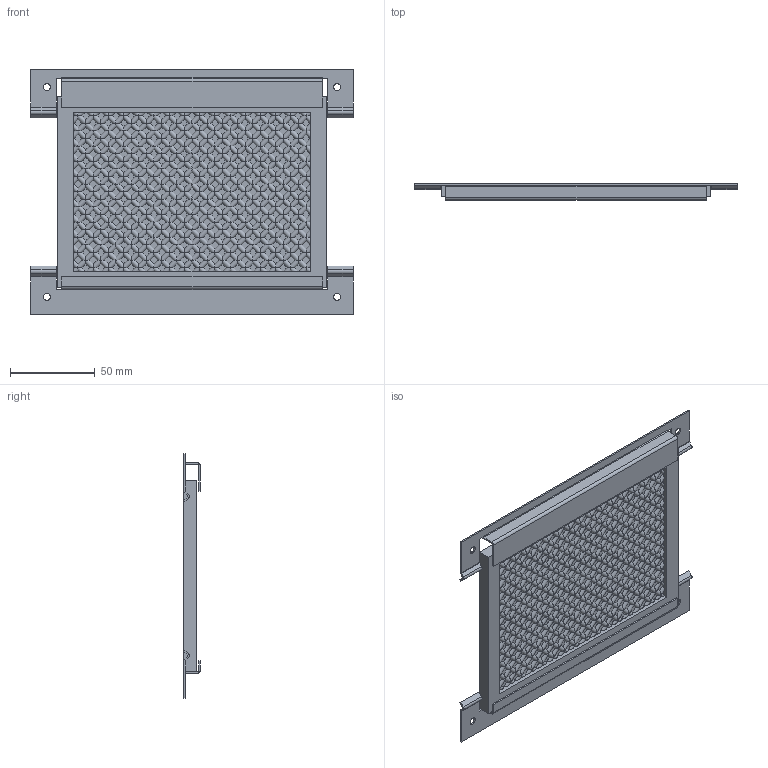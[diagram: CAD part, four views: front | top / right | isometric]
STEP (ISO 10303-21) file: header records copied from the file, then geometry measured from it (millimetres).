
FILE_DESCRIPTION((''),'2;1');
FILE_NAME('SCE-FLT64_ASM','2021-06-28T16:16:27',('johnh'),('SAGINAW CONTROL & ENGINEERING'),'CREO PARAMETRIC BY PTC INC, 2017260','CREO PARAMETRIC BY PTC INC, 2017260','');
FILE_SCHEMA(('AUTOMOTIVE_DESIGN { 1 0 10303 214 1 1 1 1 }'));
Length unit declared in the file: inch
Products named in the file (4): 116956; 116957; 105205; SCE-FLT64_ASM
Assembly tree (3 placements, depth 2):
  SCE-FLT64_ASM
    116956
    116957
    105205
Bounding box: 190.5 x 9.75 x 144.45 mm (x, y, z)
Volume: 75467 mm3; surface area: 72247.3 mm2
Topology: 3 solids, 3 shells, 2252 faces, 5984 edges, 3740 vertices
Faces by surface type: cylinder 1440, plane 812
Entity records: 84565 total; most frequent: CARTESIAN_POINT 33678, ORIENTED_EDGE 11968, DIRECTION 7710, EDGE_CURVE 5984, VERTEX_POINT 3740, VECTOR 3048, LINE 3048, B_SPLINE_CURVE_WITH_KNOTS 2864
